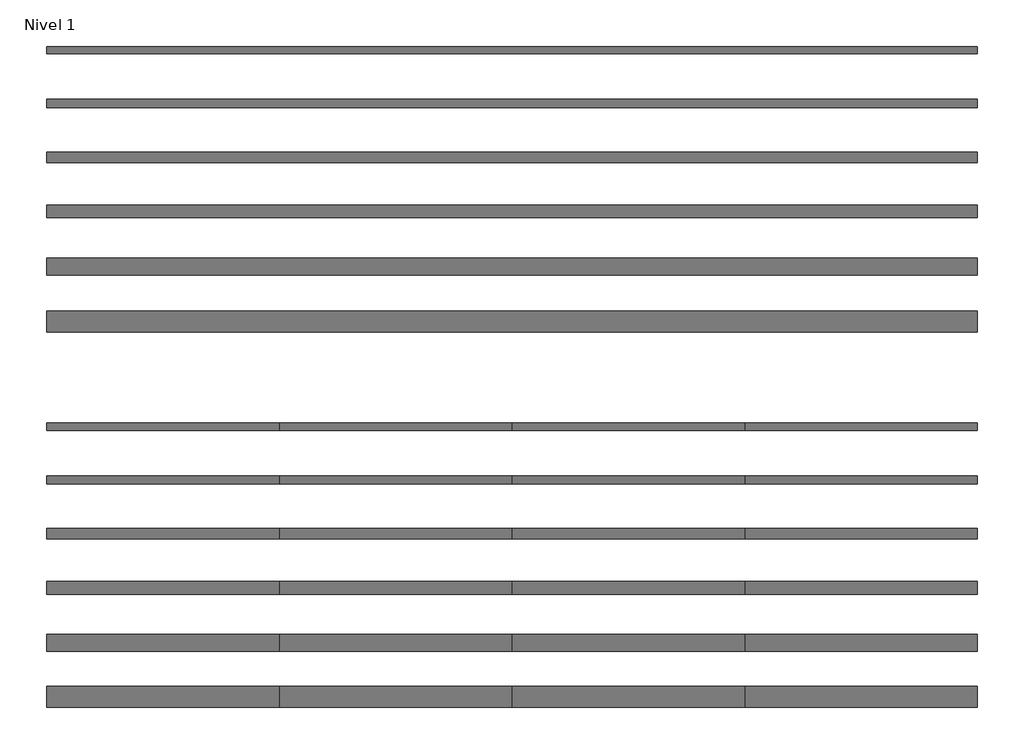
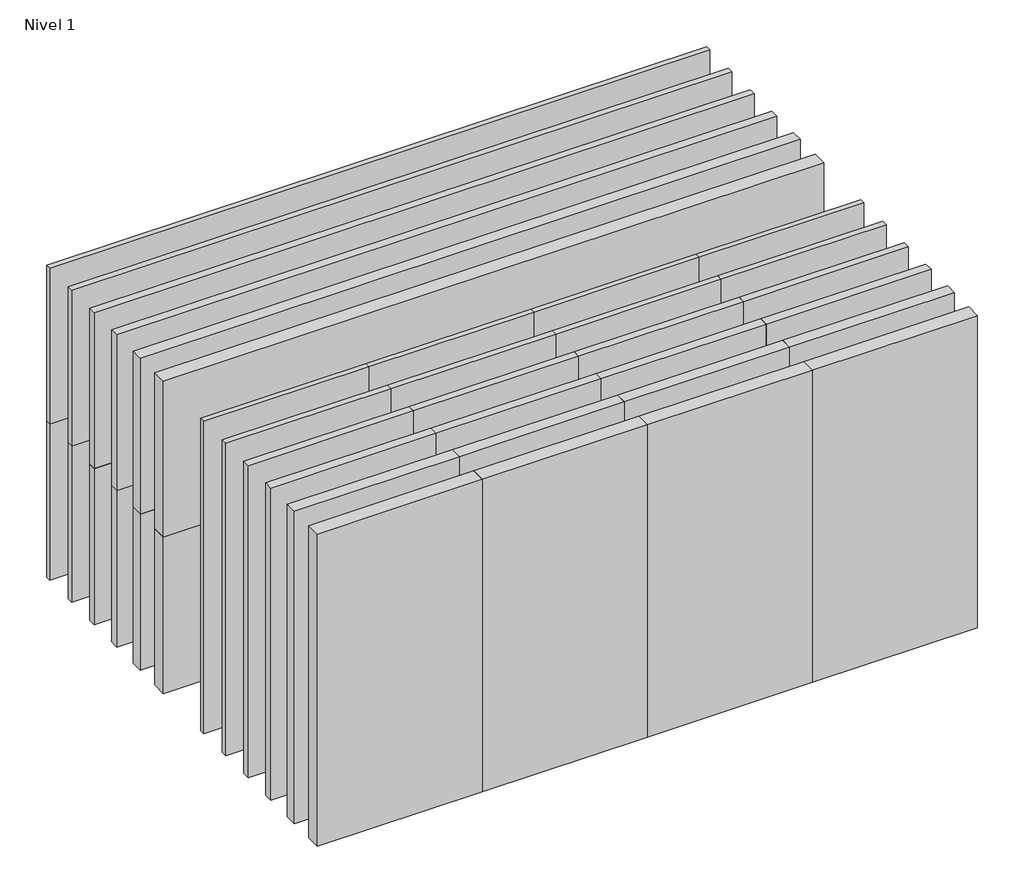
# One storey: 36 plates.
"""IFC4 building model written with IfcOpenShell, lengths in millimetres."""

from ifc_helpers import new_model, si_unit, origin, place, context, project, spatial, transform, mapped, element, save
from components import panel_del_sistema_2814d556, panel_del_sistema_924ae047, panel_del_sistema_0b9e4619, panel_del_sistema_00c51783, panel_del_sistema_633de202, panel_del_sistema_becaef52, panel_del_sistema_7393e99a, panel_del_sistema_1ea75978, panel_del_sistema_94bf3e14, panel_del_sistema_2f3d27e1, panel_del_sistema_6b5bd5af, panel_del_sistema_5ed96f91

model = new_model("IFC4")

# Units and contexts
model_context = context("Model", 3, world=origin())
ifc_project = project(units=[si_unit("LENGTHUNIT", "METRE", prefix="MILLI")], contexts=[model_context])

# Site, building, storey
site = spatial("IfcSite", under=ifc_project)
building = spatial("IfcBuilding", under=site)
storey = spatial("IfcBuildingStorey", under=building, Name="Nivel 1", Elevation=0.0)

# Plates
placement = place(None, origin())
panel_del_sistema_shape = panel_del_sistema_2814d556(model_context)
element("IfcPlate", 1, ObjectType="Panel del sistema : Hiansa Panel - Fachada Panel SEMILISO Vert - 35mm", at=placement, inside=storey, context=model_context, shape_type="MappedRepresentation", body=[
    mapped(panel_del_sistema_shape, transform((4818.1436702, 17156.5269271, 0.0), x_axis=(1.0, 0.0, 0.0), y_axis=(0.0, 1.0, 0.0), z_axis=(0.0, 0.0, 1.0))),
])
element("IfcPlate", 2, ObjectType="Panel del sistema : Hiansa Panel - Fachada Panel SEMILISO Vert - 35mm", at=placement, inside=storey, context=model_context, shape_type="MappedRepresentation", body=[
    mapped(panel_del_sistema_shape, transform((5918.1436703, 17156.5269271, 0.0), x_axis=(1.0, 0.0, 0.0), y_axis=(0.0, 1.0, 0.0), z_axis=(0.0, 0.0, 1.0))),
])
element("IfcPlate", 3, ObjectType="Panel del sistema : Hiansa Panel - Fachada Panel SEMILISO Vert - 35mm", at=placement, inside=storey, context=model_context, shape_type="MappedRepresentation", body=[
    mapped(panel_del_sistema_shape, transform((7018.1436703, 17156.5269271, 0.0), x_axis=(1.0, 0.0, 0.0), y_axis=(0.0, 1.0, 0.0), z_axis=(0.0, 0.0, 1.0))),
])
element("IfcPlate", 4, ObjectType="Panel del sistema : Hiansa Panel - Fachada Panel SEMILISO Vert - 35mm", at=placement, inside=storey, context=model_context, shape_type="MappedRepresentation", body=[
    mapped(panel_del_sistema_shape, transform((8118.1436702, 17156.5269271, 0.0), x_axis=(1.0, 0.0, 0.0), y_axis=(0.0, 1.0, 0.0), z_axis=(0.0, 0.0, 1.0))),
])
panel_del_sistema_2_shape = panel_del_sistema_924ae047(model_context)
element("IfcPlate", 5, ObjectType="Panel del sistema : Hiansa Panel - Fachada Panel SEMILISO Vert - 40mm", at=placement, inside=storey, context=model_context, shape_type="MappedRepresentation", body=[
    mapped(panel_del_sistema_2_shape, transform((4818.1436702, 16906.5269271, 0.0), x_axis=(1.0, 0.0, 0.0), y_axis=(0.0, 1.0, 0.0), z_axis=(0.0, 0.0, 1.0))),
])
element("IfcPlate", 6, ObjectType="Panel del sistema : Hiansa Panel - Fachada Panel SEMILISO Vert - 40mm", at=placement, inside=storey, context=model_context, shape_type="MappedRepresentation", body=[
    mapped(panel_del_sistema_2_shape, transform((5918.1436703, 16906.5269271, 0.0), x_axis=(1.0, 0.0, 0.0), y_axis=(0.0, 1.0, 0.0), z_axis=(0.0, 0.0, 1.0))),
])
element("IfcPlate", 7, ObjectType="Panel del sistema : Hiansa Panel - Fachada Panel SEMILISO Vert - 40mm", at=placement, inside=storey, context=model_context, shape_type="MappedRepresentation", body=[
    mapped(panel_del_sistema_2_shape, transform((7018.1436703, 16906.5269271, 0.0), x_axis=(1.0, 0.0, 0.0), y_axis=(0.0, 1.0, 0.0), z_axis=(0.0, 0.0, 1.0))),
])
element("IfcPlate", 8, ObjectType="Panel del sistema : Hiansa Panel - Fachada Panel SEMILISO Vert - 40mm", at=placement, inside=storey, context=model_context, shape_type="MappedRepresentation", body=[
    mapped(panel_del_sistema_2_shape, transform((8118.1436702, 16906.5269271, 0.0), x_axis=(1.0, 0.0, 0.0), y_axis=(0.0, 1.0, 0.0), z_axis=(0.0, 0.0, 1.0))),
])
panel_del_sistema_3_shape = panel_del_sistema_0b9e4619(model_context)
element("IfcPlate", 9, ObjectType="Panel del sistema : Hiansa Panel - Fachada Panel SEMILISO Vert - 50mm", at=placement, inside=storey, context=model_context, shape_type="MappedRepresentation", body=[
    mapped(panel_del_sistema_3_shape, transform((4818.1436702, 16658.0269271, 0.0), x_axis=(1.0, 0.0, 0.0), y_axis=(0.0, 1.0, 0.0), z_axis=(0.0, 0.0, 1.0))),
])
element("IfcPlate", 10, ObjectType="Panel del sistema : Hiansa Panel - Fachada Panel SEMILISO Vert - 50mm", at=placement, inside=storey, context=model_context, shape_type="MappedRepresentation", body=[
    mapped(panel_del_sistema_3_shape, transform((5918.1436703, 16658.0269271, 0.0), x_axis=(1.0, 0.0, 0.0), y_axis=(0.0, 1.0, 0.0), z_axis=(0.0, 0.0, 1.0))),
])
element("IfcPlate", 11, ObjectType="Panel del sistema : Hiansa Panel - Fachada Panel SEMILISO Vert - 50mm", at=placement, inside=storey, context=model_context, shape_type="MappedRepresentation", body=[
    mapped(panel_del_sistema_3_shape, transform((7018.1436703, 16658.0269271, 0.0), x_axis=(1.0, 0.0, 0.0), y_axis=(0.0, 1.0, 0.0), z_axis=(0.0, 0.0, 1.0))),
])
element("IfcPlate", 12, ObjectType="Panel del sistema : Hiansa Panel - Fachada Panel SEMILISO Vert - 50mm", at=placement, inside=storey, context=model_context, shape_type="MappedRepresentation", body=[
    mapped(panel_del_sistema_3_shape, transform((8118.1436702, 16658.0269271, 0.0), x_axis=(1.0, 0.0, 0.0), y_axis=(0.0, 1.0, 0.0), z_axis=(0.0, 0.0, 1.0))),
])
panel_del_sistema_4_shape = panel_del_sistema_00c51783(model_context)
element("IfcPlate", 13, ObjectType="Panel del sistema : Hiansa Panel - Fachada Panel SEMILISO Vert - 60mm", at=placement, inside=storey, context=model_context, shape_type="MappedRepresentation", body=[
    mapped(panel_del_sistema_4_shape, transform((4818.1436702, 16406.5269271, 0.0), x_axis=(1.0, 0.0, 0.0), y_axis=(0.0, 1.0, 0.0), z_axis=(0.0, 0.0, 1.0))),
])
element("IfcPlate", 14, ObjectType="Panel del sistema : Hiansa Panel - Fachada Panel SEMILISO Vert - 60mm", at=placement, inside=storey, context=model_context, shape_type="MappedRepresentation", body=[
    mapped(panel_del_sistema_4_shape, transform((5918.1436703, 16406.5269271, 0.0), x_axis=(1.0, 0.0, 0.0), y_axis=(0.0, 1.0, 0.0), z_axis=(0.0, 0.0, 1.0))),
])
element("IfcPlate", 15, ObjectType="Panel del sistema : Hiansa Panel - Fachada Panel SEMILISO Vert - 60mm", at=placement, inside=storey, context=model_context, shape_type="MappedRepresentation", body=[
    mapped(panel_del_sistema_4_shape, transform((7018.1436703, 16406.5269271, 0.0), x_axis=(1.0, 0.0, 0.0), y_axis=(0.0, 1.0, 0.0), z_axis=(0.0, 0.0, 1.0))),
])
element("IfcPlate", 16, ObjectType="Panel del sistema : Hiansa Panel - Fachada Panel SEMILISO Vert - 60mm", at=placement, inside=storey, context=model_context, shape_type="MappedRepresentation", body=[
    mapped(panel_del_sistema_4_shape, transform((8118.1436702, 16406.5269271, 0.0), x_axis=(1.0, 0.0, 0.0), y_axis=(0.0, 1.0, 0.0), z_axis=(0.0, 0.0, 1.0))),
])
panel_del_sistema_5_shape = panel_del_sistema_633de202(model_context)
element("IfcPlate", 17, ObjectType="Panel del sistema : Hiansa Panel - Fachada Panel SEMILISO Vert - 80mm", at=placement, inside=storey, context=model_context, shape_type="MappedRepresentation", body=[
    mapped(panel_del_sistema_5_shape, transform((4818.1436702, 16156.5269271, 0.0), x_axis=(1.0, 0.0, 0.0), y_axis=(0.0, 1.0, 0.0), z_axis=(0.0, 0.0, 1.0))),
])
element("IfcPlate", 18, ObjectType="Panel del sistema : Hiansa Panel - Fachada Panel SEMILISO Vert - 80mm", at=placement, inside=storey, context=model_context, shape_type="MappedRepresentation", body=[
    mapped(panel_del_sistema_5_shape, transform((5918.1436703, 16156.5269271, 0.0), x_axis=(1.0, 0.0, 0.0), y_axis=(0.0, 1.0, 0.0), z_axis=(0.0, 0.0, 1.0))),
])
element("IfcPlate", 19, ObjectType="Panel del sistema : Hiansa Panel - Fachada Panel SEMILISO Vert - 80mm", at=placement, inside=storey, context=model_context, shape_type="MappedRepresentation", body=[
    mapped(panel_del_sistema_5_shape, transform((7018.1436703, 16156.5269271, 0.0), x_axis=(1.0, 0.0, 0.0), y_axis=(0.0, 1.0, 0.0), z_axis=(0.0, 0.0, 1.0))),
])
element("IfcPlate", 20, ObjectType="Panel del sistema : Hiansa Panel - Fachada Panel SEMILISO Vert - 80mm", at=placement, inside=storey, context=model_context, shape_type="MappedRepresentation", body=[
    mapped(panel_del_sistema_5_shape, transform((8118.1436702, 16156.5269271, 0.0), x_axis=(1.0, 0.0, 0.0), y_axis=(0.0, 1.0, 0.0), z_axis=(0.0, 0.0, 1.0))),
])
panel_del_sistema_6_shape = panel_del_sistema_becaef52(model_context)
element("IfcPlate", 21, ObjectType="Panel del sistema : Hiansa Panel - Fachada Panel SEMILISO Vert - 100mm", at=placement, inside=storey, context=model_context, shape_type="MappedRepresentation", body=[
    mapped(panel_del_sistema_6_shape, transform((4818.1436702, 15911.2729271, 0.0), x_axis=(1.0, 0.0, 0.0), y_axis=(0.0, 1.0, 0.0), z_axis=(0.0, 0.0, 1.0))),
])
element("IfcPlate", 22, ObjectType="Panel del sistema : Hiansa Panel - Fachada Panel SEMILISO Vert - 100mm", at=placement, inside=storey, context=model_context, shape_type="MappedRepresentation", body=[
    mapped(panel_del_sistema_6_shape, transform((5918.1436703, 15911.2729271, 0.0), x_axis=(1.0, 0.0, 0.0), y_axis=(0.0, 1.0, 0.0), z_axis=(0.0, 0.0, 1.0))),
])
element("IfcPlate", 23, ObjectType="Panel del sistema : Hiansa Panel - Fachada Panel SEMILISO Vert - 100mm", at=placement, inside=storey, context=model_context, shape_type="MappedRepresentation", body=[
    mapped(panel_del_sistema_6_shape, transform((7018.1436703, 15911.2729271, 0.0), x_axis=(1.0, 0.0, 0.0), y_axis=(0.0, 1.0, 0.0), z_axis=(0.0, 0.0, 1.0))),
])
element("IfcPlate", 24, ObjectType="Panel del sistema : Hiansa Panel - Fachada Panel SEMILISO Vert - 100mm", at=placement, inside=storey, context=model_context, shape_type="MappedRepresentation", body=[
    mapped(panel_del_sistema_6_shape, transform((8118.1436702, 15911.2729271, 0.0), x_axis=(1.0, 0.0, 0.0), y_axis=(0.0, 1.0, 0.0), z_axis=(0.0, 0.0, 1.0))),
])
panel_del_sistema_7_shape = panel_del_sistema_7393e99a(model_context)
element("IfcPlate", 25, ObjectType="Panel del sistema : Hiansa Panel - Fachada Panel SEMILISO Hor - 35mm", at=placement, inside=storey, context=model_context, shape_type="MappedRepresentation", body=[
    mapped(panel_del_sistema_7_shape, transform((6468.14367, 18936.5269271, 0.0), x_axis=(1.0, 0.0, 0.0), y_axis=(0.0, 1.0, 0.0), z_axis=(0.0, 0.0, 1.0))),
])
element("IfcPlate", 26, ObjectType="Panel del sistema : Hiansa Panel - Fachada Panel SEMILISO Hor - 35mm", at=placement, inside=storey, context=model_context, shape_type="MappedRepresentation", body=[
    mapped(panel_del_sistema_7_shape, transform((6468.14367, 18936.5269271, 1100.0), x_axis=(1.0, 0.0, 0.0), y_axis=(0.0, 1.0, 0.0), z_axis=(0.0, 0.0, 1.0))),
])
panel_del_sistema_8_shape = panel_del_sistema_1ea75978(model_context)
element("IfcPlate", 27, ObjectType="Panel del sistema : Hiansa Panel - Fachada Panel SEMILISO Hor - 40mm", at=placement, inside=storey, context=model_context, shape_type="MappedRepresentation", body=[
    mapped(panel_del_sistema_8_shape, transform((6468.14367, 18686.5269271, 0.0), x_axis=(1.0, 0.0, 0.0), y_axis=(0.0, 1.0, 0.0), z_axis=(0.0, 0.0, 1.0))),
])
element("IfcPlate", 28, ObjectType="Panel del sistema : Hiansa Panel - Fachada Panel SEMILISO Hor - 40mm", at=placement, inside=storey, context=model_context, shape_type="MappedRepresentation", body=[
    mapped(panel_del_sistema_8_shape, transform((6468.14367, 18686.5269271, 1100.0), x_axis=(1.0, 0.0, 0.0), y_axis=(0.0, 1.0, 0.0), z_axis=(0.0, 0.0, 1.0))),
])
panel_del_sistema_9_shape = panel_del_sistema_94bf3e14(model_context)
element("IfcPlate", 29, ObjectType="Panel del sistema : Hiansa Panel - Fachada Panel SEMILISO Hor - 50mm", at=placement, inside=storey, context=model_context, shape_type="MappedRepresentation", body=[
    mapped(panel_del_sistema_9_shape, transform((6468.14367, 18436.5269271, 0.0), x_axis=(1.0, 0.0, 0.0), y_axis=(0.0, 1.0, 0.0), z_axis=(0.0, 0.0, 1.0))),
])
element("IfcPlate", 30, ObjectType="Panel del sistema : Hiansa Panel - Fachada Panel SEMILISO Hor - 50mm", at=placement, inside=storey, context=model_context, shape_type="MappedRepresentation", body=[
    mapped(panel_del_sistema_9_shape, transform((6468.14367, 18436.5269271, 1100.0), x_axis=(1.0, 0.0, 0.0), y_axis=(0.0, 1.0, 0.0), z_axis=(0.0, 0.0, 1.0))),
])
panel_del_sistema_10_shape = panel_del_sistema_2f3d27e1(model_context)
element("IfcPlate", 31, ObjectType="Panel del sistema : Hiansa Panel - Fachada Panel SEMILISO Hor - 60mm", at=placement, inside=storey, context=model_context, shape_type="MappedRepresentation", body=[
    mapped(panel_del_sistema_10_shape, transform((6468.14367, 18186.5269271, 0.0), x_axis=(1.0, 0.0, 0.0), y_axis=(0.0, 1.0, 0.0), z_axis=(0.0, 0.0, 1.0))),
])
element("IfcPlate", 32, ObjectType="Panel del sistema : Hiansa Panel - Fachada Panel SEMILISO Hor - 60mm", at=placement, inside=storey, context=model_context, shape_type="MappedRepresentation", body=[
    mapped(panel_del_sistema_10_shape, transform((6468.14367, 18186.5269271, 1100.0), x_axis=(1.0, 0.0, 0.0), y_axis=(0.0, 1.0, 0.0), z_axis=(0.0, 0.0, 1.0))),
])
panel_del_sistema_11_shape = panel_del_sistema_6b5bd5af(model_context)
element("IfcPlate", 33, ObjectType="Panel del sistema : Hiansa Panel - Fachada Panel SEMILISO Hor - 80mm", at=placement, inside=storey, context=model_context, shape_type="MappedRepresentation", body=[
    mapped(panel_del_sistema_11_shape, transform((6468.14367, 17936.5269271, 0.0), x_axis=(1.0, 0.0, 0.0), y_axis=(0.0, 1.0, 0.0), z_axis=(0.0, 0.0, 1.0))),
])
element("IfcPlate", 34, ObjectType="Panel del sistema : Hiansa Panel - Fachada Panel SEMILISO Hor - 80mm", at=placement, inside=storey, context=model_context, shape_type="MappedRepresentation", body=[
    mapped(panel_del_sistema_11_shape, transform((6468.14367, 17936.5269271, 1100.0), x_axis=(1.0, 0.0, 0.0), y_axis=(0.0, 1.0, 0.0), z_axis=(0.0, 0.0, 1.0))),
])
panel_del_sistema_12_shape = panel_del_sistema_5ed96f91(model_context)
element("IfcPlate", 35, ObjectType="Panel del sistema : Hiansa Panel - Fachada Panel SEMILISO Hor - 100mm", at=placement, inside=storey, context=model_context, shape_type="MappedRepresentation", body=[
    mapped(panel_del_sistema_12_shape, transform((6468.14367, 17686.5269271, 0.0), x_axis=(1.0, 0.0, 0.0), y_axis=(0.0, 1.0, 0.0), z_axis=(0.0, 0.0, 1.0))),
])
element("IfcPlate", 36, ObjectType="Panel del sistema : Hiansa Panel - Fachada Panel SEMILISO Hor - 100mm", at=placement, inside=storey, context=model_context, shape_type="MappedRepresentation", body=[
    mapped(panel_del_sistema_12_shape, transform((6468.14367, 17686.5269271, 1100.0), x_axis=(1.0, 0.0, 0.0), y_axis=(0.0, 1.0, 0.0), z_axis=(0.0, 0.0, 1.0))),
])

save(model, "model.ifc")
